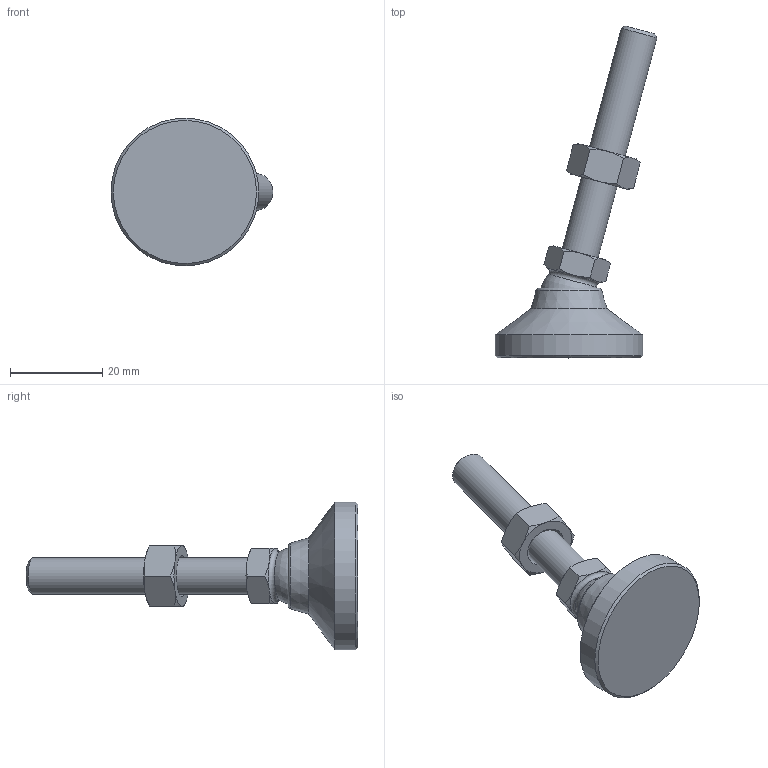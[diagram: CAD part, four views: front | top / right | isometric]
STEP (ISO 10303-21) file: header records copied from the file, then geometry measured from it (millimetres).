
FILE_DESCRIPTION( ( 'STEP AP214' ), ' ' );
FILE_NAME( 'O:/ganter_2015/teil_2/2_5/gn343_2/gn343_2_os/Levelling foot with threaded stud GN 343.2-32-M8-50-OS-(-15).stp', '2015-10-26T09:06:47', ( '' ), ( '' ), ' ', 'PARTsolutions', ' ' );
FILE_SCHEMA( ( 'AUTOMOTIVE_DESIGN { 1 0 10303 214 1 1 1 1 }' ) );
Length unit declared in the file: millimetre
Products named in the file (4): Levelling foot with threaded stud GN 343.2-32-M8-50-OS-(-15); _Levelling foot with threaded stud GN 343.2-32-M8-50-OS-(-15)_foot; _Levelling foot with threaded stud GN 343.2-32-M8-50-OS-(-15)_screw; _Stainless Steel-Levelling feet GN 343.2-32-M8-50-OS-(-15)_nut
Assembly tree (3 placements, depth 2):
  Levelling foot with threaded stud GN 343.2-32-M8-50-OS-(-15)
    _Levelling foot with threaded stud GN 343.2-32-M8-50-OS-(-15)_foot
    _Levelling foot with threaded stud GN 343.2-32-M8-50-OS-(-15)_screw
    _Stainless Steel-Levelling feet GN 343.2-32-M8-50-OS-(-15)_nut
Bounding box: 35.06 x 71.83 x 32 mm (x, y, z)
Volume: 11654.1 mm3; surface area: 5210.3 mm2
Topology: 3 solids, 3 shells, 55 faces, 116 edges, 67 vertices
Faces by surface type: cone 30, plane 18, cylinder 3, torus 2, sphere 2
Full cylindrical faces by diameter (mm): 6.647 x1, 8 x1, 32 x1
Entity records: 2022 total; most frequent: CARTESIAN_POINT 479, DIRECTION 208, ORIENTED_EDGE 198, EDGE_CURVE 99, AXIS2_PLACEMENT_3D 98, EDGE_LOOP 70, VERTEX_POINT 65, FACE_OUTER_BOUND 60
